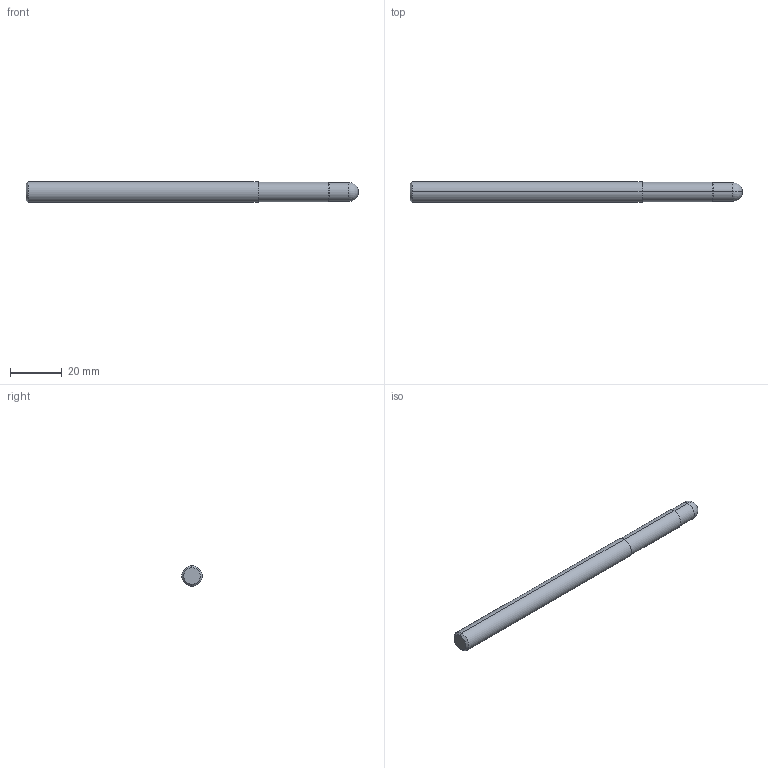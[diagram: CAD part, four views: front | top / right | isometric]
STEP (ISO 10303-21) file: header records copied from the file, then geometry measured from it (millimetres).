
FILE_DESCRIPTION (( 'STEP AP214' ), '1' );
FILE_NAME ('01-0231.STEP', '2021-02-09T23:45:52', ( 'USER' ), ( '' ), 'SwSTEP 2.0', 'SolidWorks 2018', '' );
FILE_SCHEMA (( 'AUTOMOTIVE_DESIGN' ));
Length unit declared in the file: millimetre
Products named in the file (2): 01-0231
Bounding box: 128.5 x 7.94 x 7.94 mm (x, y, z)
Volume: 6073.2 mm3; surface area: 3187.4 mm2
Topology: 1 solids, 1 shells, 16 faces, 30 edges, 16 vertices
Faces by surface type: cone 6, cylinder 6, torus 2, plane 2
Entity records: 445 total; most frequent: DIRECTION 84, CARTESIAN_POINT 64, ORIENTED_EDGE 60, AXIS2_PLACEMENT_3D 36, EDGE_CURVE 30, CIRCLE 18, FACE_OUTER_BOUND 16, ADVANCED_FACE 16
